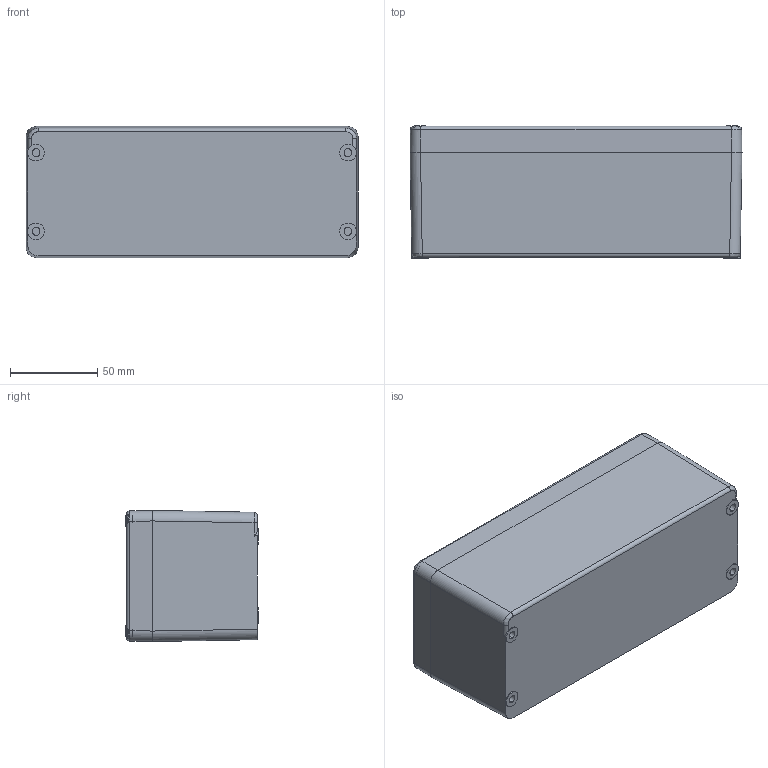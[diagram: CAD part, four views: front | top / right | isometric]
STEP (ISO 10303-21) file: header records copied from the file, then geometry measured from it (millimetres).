
FILE_DESCRIPTION (( 'STEP AP203' ), '1' );
FILE_NAME ('exe1907575.STEP', '2013-06-05T17:33:16', ( 'User' ), ( 'Pentair Inc' ), 'SwSTEP 2.0', 'SolidWorks 2010', '' );
FILE_SCHEMA (( 'CONFIG_CONTROL_DESIGN' ));
Length unit declared in the file: inch
Products named in the file (4): exe1907575; 89092783; 89092765; 89092829
Assembly tree (6 placements, depth 2):
  exe1907575
    89092765
    89092829  x4
    89092783
Bounding box: 190 x 75.9 x 75 mm (x, y, z)
Volume: 99457.7 mm3; surface area: 150017.6 mm2
Topology: 10 solids, 17 shells, 542 faces, 1393 edges, 890 vertices
Faces by surface type: plane 229, cylinder 199, cone 72, torus 28, bspline 14
Entity records: 13275 total; most frequent: CARTESIAN_POINT 3356, DIRECTION 2046, ORIENTED_EDGE 1928, EDGE_CURVE 976, AXIS2_PLACEMENT_3D 772, VERTEX_POINT 632, VECTOR 502, LINE 502
